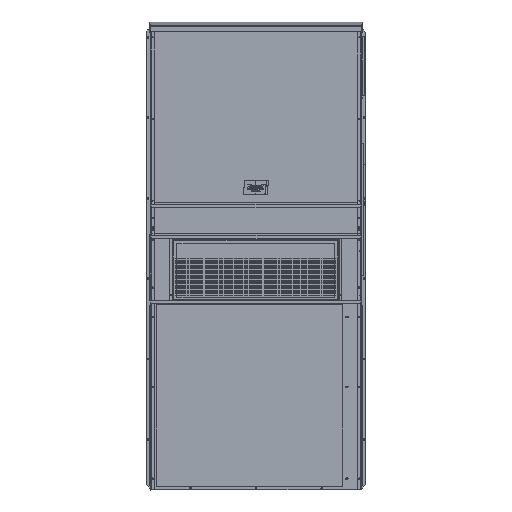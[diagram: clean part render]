
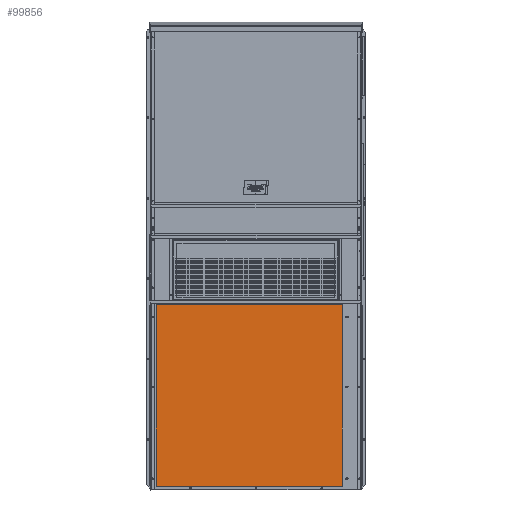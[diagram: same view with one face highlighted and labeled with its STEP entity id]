
A CAD part, top view. The second image highlights one B-rep face of the part: STEP entity #99856.
In plain terms, the highlighted planar face has unit normal (0, 0, 1).
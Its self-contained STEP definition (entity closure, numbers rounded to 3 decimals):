
#959 = LINE ( 'NONE', #58748, #63895 ) ;
#3224 = ORIENTED_EDGE ( 'NONE', *, *, #137726, .F. ) ;
#5124 = EDGE_LOOP ( 'NONE', ( #3224, #22219, #106023, #114725 ) ) ;
#7894 = VECTOR ( 'NONE', #26306, 39.37 ) ;
#12925 = CARTESIAN_POINT ( 'NONE',  ( 38.071, 0.677, 0.026 ) ) ;
#16412 = CARTESIAN_POINT ( 'NONE',  ( 38.071, 0.677, 0.026 ) ) ;
#22219 = ORIENTED_EDGE ( 'NONE', *, *, #28366, .F. ) ;
#25189 = VERTEX_POINT ( 'NONE', #34515 ) ;
#25764 = VERTEX_POINT ( 'NONE', #28956 ) ;
#26306 = DIRECTION ( 'NONE',  ( -1., 0., 0. ) ) ;
#28366 = EDGE_CURVE ( 'NONE', #25764, #144273, #130157, .T. ) ;
#28503 = DIRECTION ( 'NONE',  ( 1., 0., 0. ) ) ;
#28956 = CARTESIAN_POINT ( 'NONE',  ( 38.071, 36.787, 0.026 ) ) ;
#30800 = DIRECTION ( 'NONE',  ( 0., 0., -1. ) ) ;
#32900 = CARTESIAN_POINT ( 'NONE',  ( 38.071, 36.787, 0.026 ) ) ;
#33873 = LINE ( 'NONE', #161317, #171370 ) ;
#34515 = CARTESIAN_POINT ( 'NONE',  ( 1.069, 36.787, 0.026 ) ) ;
#58748 = CARTESIAN_POINT ( 'NONE',  ( 1.069, 0.677, 0.026 ) ) ;
#63895 = VECTOR ( 'NONE', #72209, 39.37 ) ;
#72209 = DIRECTION ( 'NONE',  ( 0., 1., 0. ) ) ;
#83615 = PLANE ( 'NONE',  #111913 ) ;
#99856 = ADVANCED_FACE ( 'NONE', ( #146704 ), #83615, .F. ) ;
#106023 = ORIENTED_EDGE ( 'NONE', *, *, #120004, .F. ) ;
#110365 = CARTESIAN_POINT ( 'NONE',  ( 1.069, 0.677, 0.026 ) ) ;
#111913 = AXIS2_PLACEMENT_3D ( 'NONE', #163582, #30800, #124220 ) ;
#114537 = LINE ( 'NONE', #12925, #7894 ) ;
#114725 = ORIENTED_EDGE ( 'NONE', *, *, #125569, .F. ) ;
#120004 = EDGE_CURVE ( 'NONE', #25189, #25764, #33873, .T. ) ;
#124220 = DIRECTION ( 'NONE',  ( -1., 0., 0. ) ) ;
#125569 = EDGE_CURVE ( 'NONE', #128733, #25189, #959, .T. ) ;
#126270 = DIRECTION ( 'NONE',  ( 0., -1., 0. ) ) ;
#128733 = VERTEX_POINT ( 'NONE', #110365 ) ;
#130157 = LINE ( 'NONE', #32900, #161221 ) ;
#137726 = EDGE_CURVE ( 'NONE', #144273, #128733, #114537, .T. ) ;
#144273 = VERTEX_POINT ( 'NONE', #16412 ) ;
#146704 = FACE_OUTER_BOUND ( 'NONE', #5124, .T. ) ;
#161221 = VECTOR ( 'NONE', #126270, 39.37 ) ;
#161317 = CARTESIAN_POINT ( 'NONE',  ( 1.069, 36.787, 0.026 ) ) ;
#163582 = CARTESIAN_POINT ( 'NONE',  ( 38.071, 0.677, 0.026 ) ) ;
#171370 = VECTOR ( 'NONE', #28503, 39.37 ) ;
